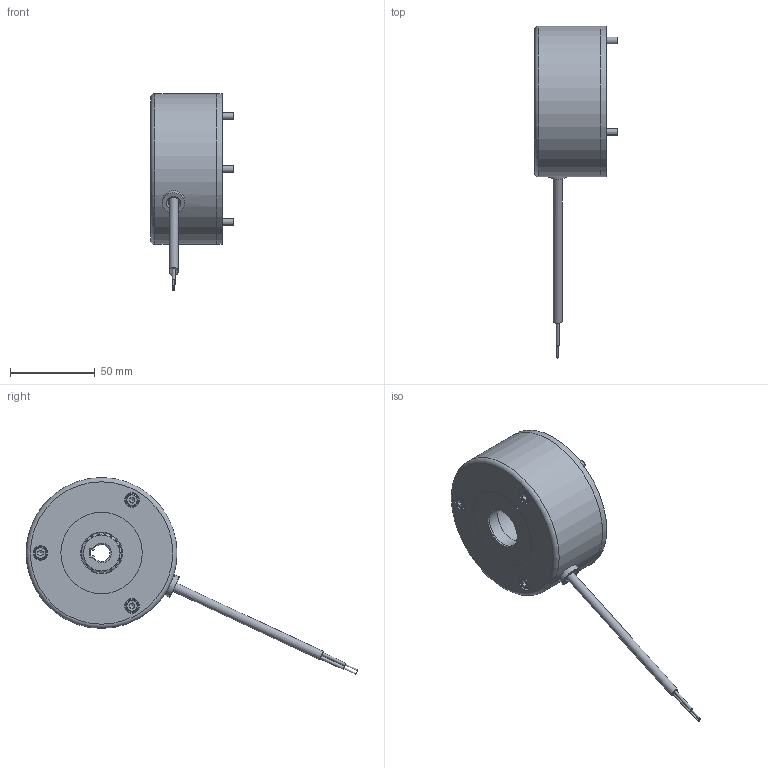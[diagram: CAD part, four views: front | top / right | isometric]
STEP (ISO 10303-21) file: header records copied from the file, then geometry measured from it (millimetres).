
FILE_DESCRIPTION(/* description */ (''),/* implementation_level */ '2;1');
FILE_NAME(/* name */ 'C:\SapWorkDir\Inventor\IP1\ConvertTempPath\5028606_IPT_000.ipt.stp',/* time_stamp */ '2020-09-10T10:51:58+02:00',/* author */ ('STRATE'),/* organization */ (''),/* preprocessor_version */ 'ST-DEVELOPER v17',/* originating_system */ 'Autodesk Inventor 2018',/* authorisation */ '');
FILE_SCHEMA (('AUTOMOTIVE_DESIGN { 1 0 10303 214 3 1 1 }'));
Length unit declared in the file: millimetre
Products named in the file (1): 5028606
Bounding box: 49.3 x 195.71 x 116.15 mm (x, y, z)
Volume: 193291.2 mm3; surface area: 57643.9 mm2
Topology: 4 solids, 4 shells, 292 faces, 781 edges, 532 vertices
Faces by surface type: cylinder 177, plane 72, cone 23, torus 20
Full cylindrical faces by diameter (mm): 1 x2, 1.85 x2, 3 x1, 4 x3, 4.5 x3, 5.3 x1, 6.6 x1, 7 x3, 7.9 x3, 8.6 x3, 13.2 x1, 24 x1, 29 x1, 30.8 x1, 31 x1, 39.5 x2, 48 x1, 60 x1, 81 x1, 87 x2, 89 x2
Entity records: 10308 total; most frequent: CARTESIAN_POINT 2517, ORIENTED_EDGE 1558, DIRECTION 1552, EDGE_CURVE 779, AXIS2_PLACEMENT_3D 649, VERTEX_POINT 532, CIRCLE 356, EDGE_LOOP 347
